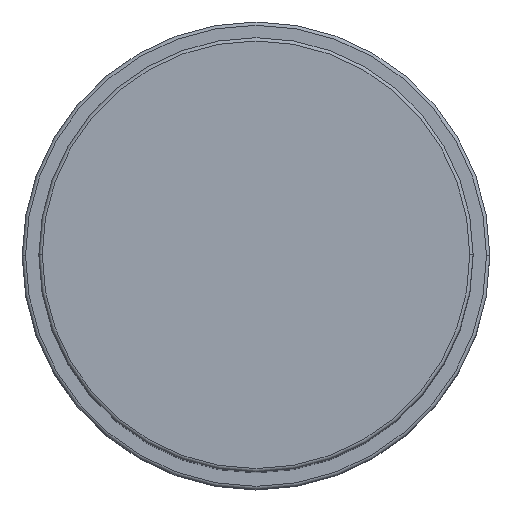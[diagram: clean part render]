
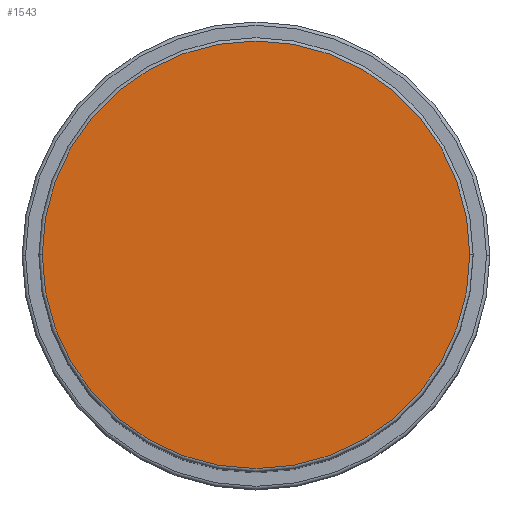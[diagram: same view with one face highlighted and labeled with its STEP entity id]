
A CAD part, top view. The second image highlights one B-rep face of the part: STEP entity #1543.
In plain terms, the highlighted planar face has unit normal (0, 0, 1).
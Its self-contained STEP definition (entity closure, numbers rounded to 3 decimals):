
#363 = DIRECTION ( 'NONE',  ( 0., 0., 1. ) ) ;
#384 = CIRCLE ( 'NONE', #1590, 32. ) ;
#417 = ORIENTED_EDGE ( 'NONE', *, *, #443, .T. ) ;
#438 = ORIENTED_EDGE ( 'NONE', *, *, #1067, .T. ) ;
#443 = EDGE_CURVE ( 'NONE', #1450, #1160, #384, .T. ) ;
#448 = DIRECTION ( 'NONE',  ( 1., 0., 0. ) ) ;
#565 = DIRECTION ( 'NONE',  ( 1., 0., 0. ) ) ;
#611 = AXIS2_PLACEMENT_3D ( 'NONE', #1746, #363, #917 ) ;
#618 = CARTESIAN_POINT ( 'NONE',  ( -32., 0., 117. ) ) ;
#778 = EDGE_LOOP ( 'NONE', ( #438, #417 ) ) ;
#893 = DIRECTION ( 'NONE',  ( 0., 0., 1. ) ) ;
#917 = DIRECTION ( 'NONE',  ( 1., 0., 0. ) ) ;
#987 = CARTESIAN_POINT ( 'NONE',  ( 0., 0., 117. ) ) ;
#1021 = CARTESIAN_POINT ( 'NONE',  ( 0., 0., 117. ) ) ;
#1034 = CIRCLE ( 'NONE', #611, 32. ) ;
#1067 = EDGE_CURVE ( 'NONE', #1160, #1450, #1034, .T. ) ;
#1160 = VERTEX_POINT ( 'NONE', #1776 ) ;
#1186 = FACE_OUTER_BOUND ( 'NONE', #778, .T. ) ;
#1258 = AXIS2_PLACEMENT_3D ( 'NONE', #987, #1686, #565 ) ;
#1450 = VERTEX_POINT ( 'NONE', #618 ) ;
#1543 = ADVANCED_FACE ( 'NONE', ( #1186 ), #1667, .T. ) ;
#1590 = AXIS2_PLACEMENT_3D ( 'NONE', #1021, #893, #448 ) ;
#1667 = PLANE ( 'NONE',  #1258 ) ;
#1686 = DIRECTION ( 'NONE',  ( 0., 0., 1. ) ) ;
#1746 = CARTESIAN_POINT ( 'NONE',  ( 0., 0., 117. ) ) ;
#1776 = CARTESIAN_POINT ( 'NONE',  ( 32., 0., 117. ) ) ;
